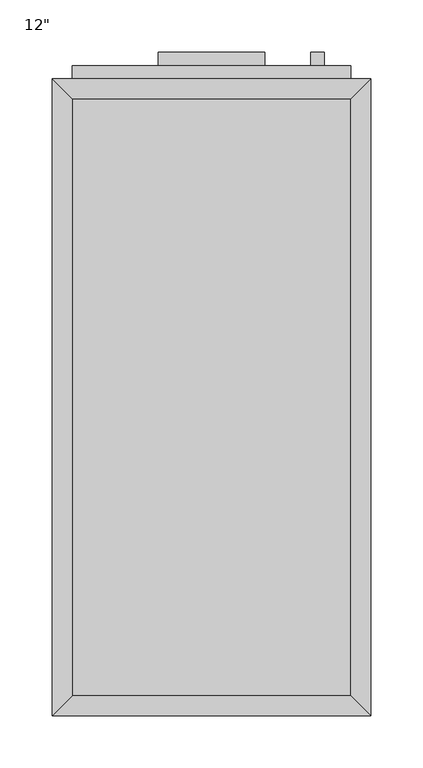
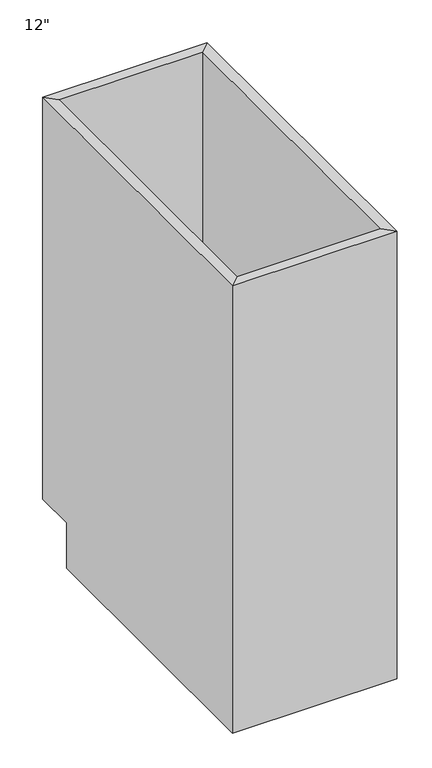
"""IFC4 building model written with IfcOpenShell, lengths in millimetres: furniture geometry."""

from ifc_helpers import new_model, si_unit, frame, origin, place, context, project, spatial, polyline, outline, extrude, faceted_brep, source, transform, mapped, element, save


def furniture_337523c0(model_context):
    return source(origin(), model_context, "Body", "SolidModel", [
        faceted_brep([(152.0877049, 590.55, 876.3), (-114.6122951, 590.55, 876.3), (-114.6122951, 590.55, 88.9), (152.0877049, 590.55, 88.9), (171.1377049, 609.6, 876.3), (-133.6622951, 609.6, 876.3), (171.1377049, 609.6, 88.9), (-133.6622951, 609.6, 88.9), (-114.6122951, 19.05, 876.3), (-114.6122951, 19.05, 88.9), (-114.6122951, 533.4, 88.9), (-133.6622951, 0.0, 876.3), (-133.6622951, 533.4, 88.9), (-133.6622951, 533.4, 0.0), (-133.6622951, 0.0, 0.0), (152.0877049, 19.05, 876.3), (152.0877049, 19.05, 88.9), (171.1377049, 0.0, 876.3), (171.1377049, 0.0, 0.0), (152.0877049, 533.4, 88.9), (171.1377049, 533.4, 0.0), (171.1377049, 533.4, 88.9)], [[[0, 1, 2, 3]], [[0, 4, 5, 1]], [[4, 6, 7, 5]], [[2, 7, 6, 3]], [[1, 8, 9, 10, 2]], [[5, 11, 8, 1]], [[7, 12, 13, 14, 11, 5]], [[2, 10, 12, 7]], [[8, 15, 16, 9]], [[11, 17, 15, 8]], [[14, 18, 17, 11]], [[3, 19, 16, 15, 0]], [[0, 15, 17, 4]], [[4, 17, 18, 20, 21, 6]], [[6, 21, 19, 3]], [[10, 9, 16, 19]], [[18, 14, 13, 20]], [[13, 12, 10, 19, 21, 20]]]),
        extrude(outline(polyline([(126.6877049, 635.0), (126.6877049, 622.3), (113.9877049, 622.3), (113.9877049, 635.0), (126.6877049, 635.0)])), frame((0.0, 0.0, 596.9), z_axis=(0.0, 0.0, 1.0), x_axis=(1.0, 0.0, 0.0)), (0.0, 0.0, 1.0), 101.6),
        extrude(outline(polyline([(69.5377049, 635.0), (69.5377049, 622.3), (-32.0622951, 622.3), (-32.0622951, 635.0), (69.5377049, 635.0)])), frame((0.0, 0.0, 819.15), z_axis=(0.0, 0.0, 1.0), x_axis=(1.0, 0.0, 0.0)), (0.0, 0.0, 1.0), 12.7),
        extrude(outline(polyline([(152.0877049, 622.3), (152.0877049, 609.6), (-114.6122951, 609.6), (-114.6122951, 622.3), (152.0877049, 622.3)])), frame((0.0, 0.0, 107.95), z_axis=(0.0, 0.0, 1.0), x_axis=(1.0, 0.0, 0.0)), (0.0, 0.0, 1.0), 628.65),
        extrude(outline(polyline([(152.0877049, 622.3), (152.0877049, 609.6), (-114.6122951, 609.6), (-114.6122951, 622.3), (152.0877049, 622.3)])), frame((0.0, 0.0, 755.65), z_axis=(0.0, 0.0, 1.0), x_axis=(1.0, 0.0, 0.0)), (0.0, 0.0, 1.0), 101.6),
        extrude(outline(polyline([(152.0877049, 19.05), (-114.6122951, 19.05), (-114.6122951, 590.55), (152.0877049, 590.55), (152.0877049, 19.05)])), frame((0.0, 0.0, 88.9), z_axis=(0.0, 0.0, 1.0), x_axis=(1.0, 0.0, 0.0)), (0.0, 0.0, 1.0), 19.05),
    ])


if __name__ == "__main__":
    model = new_model("IFC4")
    model_context = context("Model", 3, world=origin())
    ifc_project = project(units=[si_unit("LENGTHUNIT", "METRE", prefix="MILLI")], contexts=[model_context])
    site = spatial("IfcSite", under=ifc_project)
    building = spatial("IfcBuilding", under=site)
    placement = place(None, origin())
    furniture_shape = furniture_337523c0(model_context)
    element("IfcFurniture", 1, ObjectType="Base Cabinet-Single Door & Drawer : 12\"", at=placement, inside=building, context=model_context, shape_type="MappedRepresentation", body=[
        mapped(furniture_shape, transform((0.0, 0.0, 0.0), x_axis=(1.0, 0.0, 0.0), y_axis=(0.0, 1.0, 0.0), z_axis=(0.0, 0.0, 1.0))),
    ])
    save(model, "model.ifc")
